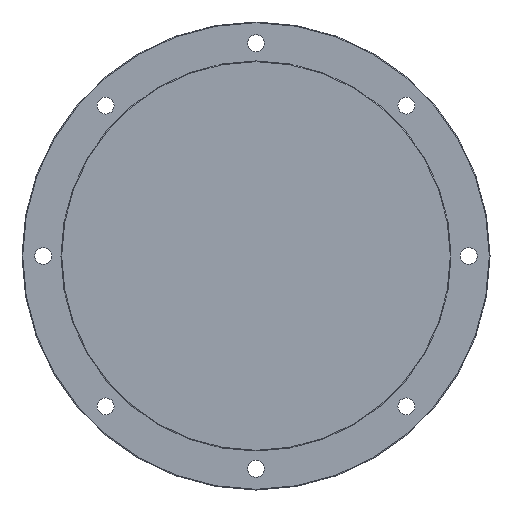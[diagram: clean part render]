
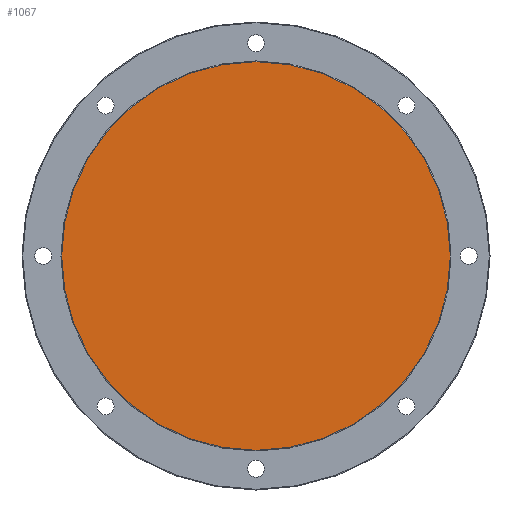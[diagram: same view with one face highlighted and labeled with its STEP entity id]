
A CAD part, left-side view. The second image highlights one B-rep face of the part: STEP entity #1067.
In plain terms, the highlighted planar face has unit normal (-1, 0, 0).
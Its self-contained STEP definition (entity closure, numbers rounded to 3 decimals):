
#1044=CARTESIAN_POINT('',(0.0,274.0,0.0));
#1045=VERTEX_POINT('',#1044);
#1046=CARTESIAN_POINT('',(0.0,0.0,0.0));
#1047=DIRECTION('',(1.0,0.0,0.0));
#1048=DIRECTION('',(0.0,-1.0,0.0));
#1049=AXIS2_PLACEMENT_3D('',#1046,#1047,#1048);
#1050=CIRCLE('',#1049,274.0);
#1051=EDGE_CURVE('',#1045,#1045,#1050,.T.);
#1059=CARTESIAN_POINT('',(0.0,195.319,0.));
#1060=DIRECTION('',(-1.0,0.0,0.0));
#1061=DIRECTION('',(0.0,0.0,1.0));
#1062=AXIS2_PLACEMENT_3D('',#1059,#1060,#1061);
#1063=PLANE('',#1062);
#1064=ORIENTED_EDGE('',*,*,#1051,.F.);
#1065=EDGE_LOOP('',(#1064));
#1066=FACE_OUTER_BOUND('',#1065,.T.);
#1067=ADVANCED_FACE('',(#1066),#1063,.T.);
